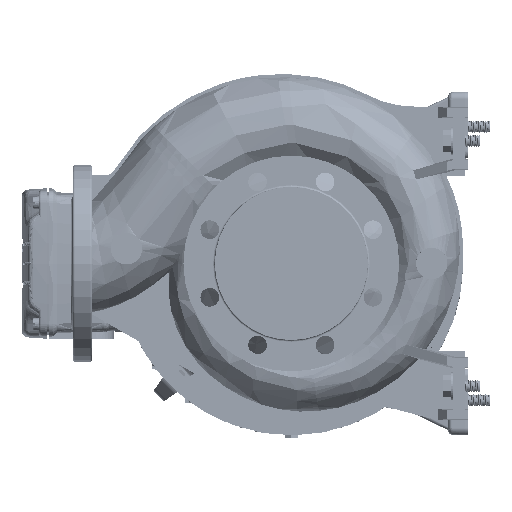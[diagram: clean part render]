
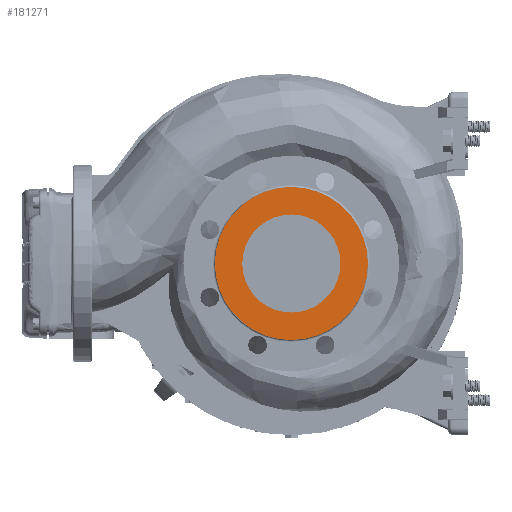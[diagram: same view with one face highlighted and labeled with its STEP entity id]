
A CAD part, left-side view. The second image highlights one B-rep face of the part: STEP entity #181271.
In plain terms, the highlighted planar face has unit normal (-1, 0, 0).
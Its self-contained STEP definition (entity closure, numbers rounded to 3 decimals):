
#3545 = EDGE_CURVE ( 'NONE', #206916, #163763, #219374, .T. ) ;
#9975 = ORIENTED_EDGE ( 'NONE', *, *, #90648, .T. ) ;
#10931 = VERTEX_POINT ( 'NONE', #141584 ) ;
#19295 = VERTEX_POINT ( 'NONE', #76485 ) ;
#20462 = CIRCLE ( 'NONE', #145048, 50. ) ;
#31422 = DIRECTION ( 'NONE',  ( 0., 1., 0. ) ) ;
#37186 = AXIS2_PLACEMENT_3D ( 'NONE', #200772, #49229, #31422 ) ;
#49229 = DIRECTION ( 'NONE',  ( 1., 0., 0. ) ) ;
#56470 = EDGE_LOOP ( 'NONE', ( #103963, #147861 ) ) ;
#59149 = DIRECTION ( 'NONE',  ( 0., -1., 0. ) ) ;
#60681 = EDGE_CURVE ( 'NONE', #10931, #19295, #170969, .T. ) ;
#62612 = CARTESIAN_POINT ( 'NONE',  ( -125., 0., 0. ) ) ;
#65929 = FACE_BOUND ( 'NONE', #56470, .T. ) ;
#71009 = DIRECTION ( 'NONE',  ( 0., -1., 0. ) ) ;
#72226 = EDGE_LOOP ( 'NONE', ( #201162, #9975 ) ) ;
#76485 = CARTESIAN_POINT ( 'NONE',  ( -125., 78., 0. ) ) ;
#84907 = CIRCLE ( 'NONE', #145384, 78. ) ;
#89197 = CARTESIAN_POINT ( 'NONE',  ( -125., 50., 0. ) ) ;
#90648 = EDGE_CURVE ( 'NONE', #19295, #10931, #84907, .T. ) ;
#103963 = ORIENTED_EDGE ( 'NONE', *, *, #3545, .F. ) ;
#110120 = DIRECTION ( 'NONE',  ( 0., -1., 0. ) ) ;
#114465 = DIRECTION ( 'NONE',  ( -1., 0., 0. ) ) ;
#126058 = CARTESIAN_POINT ( 'NONE',  ( -125., 0., 0. ) ) ;
#130621 = DIRECTION ( 'NONE',  ( -1., 0., 0. ) ) ;
#140123 = CARTESIAN_POINT ( 'NONE',  ( -125., 0., 0. ) ) ;
#140840 = CARTESIAN_POINT ( 'NONE',  ( -125., -50., 0. ) ) ;
#141584 = CARTESIAN_POINT ( 'NONE',  ( -125., -78., 0. ) ) ;
#145048 = AXIS2_PLACEMENT_3D ( 'NONE', #200227, #114465, #110120 ) ;
#145384 = AXIS2_PLACEMENT_3D ( 'NONE', #62612, #130621, #198580 ) ;
#147861 = ORIENTED_EDGE ( 'NONE', *, *, #185956, .F. ) ;
#148175 = AXIS2_PLACEMENT_3D ( 'NONE', #126058, #196215, #59149 ) ;
#154625 = DIRECTION ( 'NONE',  ( -1., 0., 0. ) ) ;
#163763 = VERTEX_POINT ( 'NONE', #89197 ) ;
#167371 = PLANE ( 'NONE',  #37186 ) ;
#170969 = CIRCLE ( 'NONE', #192261, 78. ) ;
#181271 = ADVANCED_FACE ( 'NONE', ( #65929, #201894 ), #167371, .F. ) ;
#185956 = EDGE_CURVE ( 'NONE', #163763, #206916, #20462, .T. ) ;
#192261 = AXIS2_PLACEMENT_3D ( 'NONE', #140123, #154625, #71009 ) ;
#196215 = DIRECTION ( 'NONE',  ( -1., 0., 0. ) ) ;
#198580 = DIRECTION ( 'NONE',  ( 0., -1., 0. ) ) ;
#200227 = CARTESIAN_POINT ( 'NONE',  ( -125., 0., 0. ) ) ;
#200772 = CARTESIAN_POINT ( 'NONE',  ( -125., 0., 0. ) ) ;
#201162 = ORIENTED_EDGE ( 'NONE', *, *, #60681, .T. ) ;
#201894 = FACE_OUTER_BOUND ( 'NONE', #72226, .T. ) ;
#206916 = VERTEX_POINT ( 'NONE', #140840 ) ;
#219374 = CIRCLE ( 'NONE', #148175, 50. ) ;
